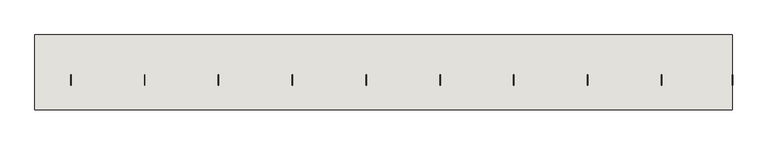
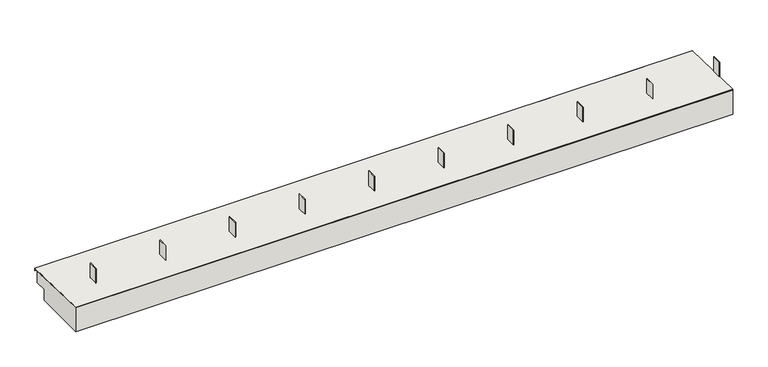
"""IFC4 building model written with IfcOpenShell, lengths in millimetres: wall geometry, Corniche1 : Corniche."""

import ifcopenshell
import ifcopenshell.guid

model = None  # the IFC model being written
_history = None  # IfcOwnerHistory: only IFC2X3 demands one
_inside = {}  # id of a spatial element -> (the spatial element, [elements in it])
_under = {}  # id of a project, library or spatial element -> (it, [spatial elements below it])
_declared = {}  # id of a project -> (the project, [libraries it declares])
_typed = {}  # id of a type object -> (the type object, [elements of that type])
_made_of = {}  # id of a material, layer set ... -> (it, [elements and type objects made of it])


def new_model(schema):
    """Start an empty IFC model of exactly this schema.

    Asked for "IFC4X3", IfcOpenShell would pick the latest addendum, in which some entities
    have other attributes; the version numbers below select the first issue.
    IFC2X3 requires an IfcOwnerHistory on every rooted entity: one is made here for all.
    """
    global model, _history
    if schema == "IFC4X3":
        model = ifcopenshell.file(schema_version=(4, 3, 0, 0))
    else:
        model = ifcopenshell.file(schema=schema)
    _inside.clear()
    _under.clear()
    _declared.clear()
    _typed.clear()
    _made_of.clear()
    _history = None
    if model.schema == "IFC2X3":
        org = make("IfcOrganization", Name="unknown")
        user = make(
            "IfcPersonAndOrganization",
            ThePerson=make("IfcPerson", FamilyName="unknown"),
            TheOrganization=org,
        )
        app = make(
            "IfcApplication",
            ApplicationDeveloper=org,
            Version="unknown",
            ApplicationFullName="unknown",
            ApplicationIdentifier="unknown",
        )
        _history = make(
            "IfcOwnerHistory",
            OwningUser=user,
            OwningApplication=app,
            ChangeAction="ADDED",
            CreationDate=0,
        )
    return model


def make(cls, **values):
    """One entity of the class cls with the attributes given. An attribute that is None is left unset."""
    return model.create_entity(
        cls, **{name: value for name, value in values.items() if value is not None}
    )


def rooted(cls, **values):
    """An entity with a GlobalId (a new one), such as an element, a storey or a relation."""
    return make(cls, GlobalId=ifcopenshell.guid.new(), OwnerHistory=_history, **values)


def si_unit(unit_type, name, prefix=None):
    """IfcSIUnit, for example si_unit("LENGTHUNIT", "METRE", prefix="MILLI")."""
    return make("IfcSIUnit", UnitType=unit_type, Prefix=prefix, Name=name)


def assignment(units):
    """IfcUnitAssignment: the units of a project."""
    return None if units is None else make("IfcUnitAssignment", Units=units)


def point(xyz):
    """IfcCartesianPoint."""
    return None if xyz is None else make("IfcCartesianPoint", Coordinates=xyz)


def direction(xyz):
    """IfcDirection."""
    return None if xyz is None else make("IfcDirection", DirectionRatios=xyz)


def frame(location, z_axis=None, x_axis=None):
    """IfcAxis2Placement3D, a coordinate frame: its origin and axes. An axis left out is left unset."""
    return make(
        "IfcAxis2Placement3D",
        Location=point(location),
        Axis=direction(z_axis),
        RefDirection=direction(x_axis),
    )


def origin():
    """The frame at (0, 0, 0) with its axes left unset."""
    return frame((0.0, 0.0, 0.0))


def place(relative_to, where):
    """IfcLocalPlacement: puts the frame where relative to a parent placement (None: the world)."""
    return make(
        "IfcLocalPlacement", PlacementRelTo=relative_to, RelativePlacement=where
    )


def context(
    kind, dimensions, precision=None, world=None, true_north=None, identifier=None
):
    """IfcGeometricRepresentationContext, for example the 3D "Model" context."""
    return make(
        "IfcGeometricRepresentationContext",
        ContextIdentifier=identifier,
        ContextType=kind,
        CoordinateSpaceDimension=dimensions,
        Precision=precision,
        WorldCoordinateSystem=world,
        TrueNorth=true_north,
    )


def project(units=None, contexts=None):
    """IfcProject with its units and contexts."""
    return rooted(
        "IfcProject",
        Name="project",
        RepresentationContexts=contexts,
        UnitsInContext=assignment(units),
    )


def spatial(cls, under=None, at=None, **own):
    """A site, building, storey or space (cls), placed at a placement, below another one or the project."""
    s = rooted(cls, ObjectPlacement=at, **own)
    if under is not None:
        _under.setdefault(under.id(), (under, []))[1].append(s)
    return s


def polyline(points):
    """IfcPolyline through the points."""
    return make("IfcPolyline", Points=[point(p) for p in points])


def outline(outer, holes=None, kind="AREA"):
    """IfcArbitraryClosedProfileDef: a profile drawn as a closed curve; with holes, ...WithVoids."""
    if holes is None:
        return make("IfcArbitraryClosedProfileDef", ProfileType=kind, OuterCurve=outer)
    return make(
        "IfcArbitraryProfileDefWithVoids",
        ProfileType=kind,
        OuterCurve=outer,
        InnerCurves=holes,
    )


def extrude(swept, where, along, depth):
    """IfcExtrudedAreaSolid: the profile swept, set in the frame where, extruded along a direction by depth."""
    return make(
        "IfcExtrudedAreaSolid",
        SweptArea=swept,
        Position=where,
        ExtrudedDirection=direction(along),
        Depth=depth,
    )


def shape(context_of_items, identifier, shape_type, items):
    """IfcShapeRepresentation: the items that make up one representation, for example the "Body"."""
    return make(
        "IfcShapeRepresentation",
        ContextOfItems=context_of_items,
        RepresentationIdentifier=identifier,
        RepresentationType=shape_type,
        Items=items,
    )


def source(mapping_origin, context_of_items, identifier, shape_type, items):
    """IfcRepresentationMap: a shape defined once, which mapped items show again and again."""
    return make(
        "IfcRepresentationMap",
        MappingOrigin=mapping_origin,
        MappedRepresentation=shape(context_of_items, identifier, shape_type, items),
    )


def transform(
    local_origin,
    x_axis=None,
    y_axis=None,
    z_axis=None,
    scale=None,
    scale2=None,
    scale3=None,
    uniform=True,
):
    """IfcCartesianTransformationOperator3D, or its non-uniform kind. x_axis, y_axis, z_axis: its Axis1, 2, 3."""
    if uniform:
        return make(
            "IfcCartesianTransformationOperator3D",
            Axis1=direction(x_axis),
            Axis2=direction(y_axis),
            LocalOrigin=point(local_origin),
            Scale=scale,
            Axis3=direction(z_axis),
        )
    return make(
        "IfcCartesianTransformationOperator3DnonUniform",
        Axis1=direction(x_axis),
        Axis2=direction(y_axis),
        LocalOrigin=point(local_origin),
        Scale=scale,
        Axis3=direction(z_axis),
        Scale2=scale2,
        Scale3=scale3,
    )


def mapped(mapping_source, mapping_target):
    """IfcMappedItem: shows the shape of a source again, moved by a transform."""
    return make(
        "IfcMappedItem", MappingSource=mapping_source, MappingTarget=mapping_target
    )


def made_of(thing, what):
    """Note that an element or type object is made of a material, layer set ...; save() writes the relation."""
    if what is not None:
        _made_of.setdefault(what.id(), (what, []))[1].append(thing)
    return thing


def element(
    cls,
    number,
    at=None,
    inside=None,
    cuts=None,
    type_object=None,
    material=None,
    context=None,
    identifier="Body",
    shape_type=None,
    held_by="IfcProductDefinitionShape",
    body=None,
    shapes=None,
    **own,
):
    """One element of the class cls, such as IfcWall. Its Tag is "e" and its number.

    at: its placement. inside: the storey or other place that contains it. cuts: it is an
    opening in that element (IfcRelVoidsElement). A single representation is given by context,
    identifier, shape_type and body (its items); several are given by shapes. held_by: the class
    of the entity that holds the representations. save() writes the other relations.
    """
    e = rooted(cls, Tag="e%d" % number, ObjectPlacement=at, **own)
    if body is not None:
        shapes = [shape(context, identifier, shape_type, body)]
    if shapes is not None:
        e.Representation = make(held_by, Representations=shapes)
    if inside is not None:
        _inside.setdefault(inside.id(), (inside, []))[1].append(e)
    if cuts is not None:
        rooted(
            "IfcRelVoidsElement", RelatingBuildingElement=cuts, RelatedOpeningElement=e
        )
    if type_object is not None:
        _typed.setdefault(type_object.id(), (type_object, []))[1].append(e)
    return made_of(e, material)


def aggregate(whole, parts):
    """IfcRelAggregates: a whole, such as a stair, and the parts it consists of."""
    return rooted("IfcRelAggregates", RelatingObject=whole, RelatedObjects=parts)


def save(model, path):
    """Write the relations noted so far, then the file.

    IfcRelAggregates (storeys below a building ...), IfcRelContainedInSpatialStructure (elements
    in a storey), IfcRelDefinesByType, IfcRelAssociatesMaterial and IfcRelDeclares: one each for
    every whole, place, type object, material and project.
    """
    for whole, parts in _under.values():
        aggregate(whole, parts)
    for where, things in _inside.values():
        rooted(
            "IfcRelContainedInSpatialStructure",
            RelatedElements=things,
            RelatingStructure=where,
        )
    for kind, things in _typed.values():
        rooted("IfcRelDefinesByType", RelatedObjects=things, RelatingType=kind)
    for what, things in _made_of.values():
        rooted("IfcRelAssociatesMaterial", RelatedObjects=things, RelatingMaterial=what)
    for by, libraries in _declared.values():
        rooted("IfcRelDeclares", RelatingContext=by, RelatedDefinitions=libraries)
    model.write(path)


def wall_f2b026c9(model_context):
    return source(origin(), model_context, "Body", "SweptSolid", [
        extrude(outline(polyline([(9081.7466393, 7292.9133288), (9076.7466393, 7292.9133288), (9076.7466393, 7417.9133288), (9081.7466393, 7417.9133288), (9081.7466393, 7292.9133288)])), frame((0.0, 0.0, 6832.3587747), z_axis=(0.0, 0.0, 1.0), x_axis=(1.0, 0.0, 0.0)), (0.0, 0.0, 1.0), 200.0412253),
        extrude(outline(polyline([(8229.4466393, 7292.9133288), (8224.4466393, 7292.9133288), (8224.4466393, 7417.9133288), (8229.4466393, 7417.9133288), (8229.4466393, 7292.9133288)])), frame((0.0, 0.0, 6832.3587747), z_axis=(0.0, 0.0, 1.0), x_axis=(1.0, 0.0, 0.0)), (0.0, 0.0, 1.0), 200.0412253),
        extrude(outline(polyline([(7341.1466393, 7292.9133288), (7336.1466393, 7292.9133288), (7336.1466393, 7417.9133288), (7341.1466393, 7417.9133288), (7341.1466393, 7292.9133288)])), frame((0.0, 0.0, 6832.3587747), z_axis=(0.0, 0.0, 1.0), x_axis=(1.0, 0.0, 0.0)), (0.0, 0.0, 1.0), 200.0412253),
        extrude(outline(polyline([(6452.8466393, 7292.9133288), (6447.8466393, 7292.9133288), (6447.8466393, 7417.9133288), (6452.8466393, 7417.9133288), (6452.8466393, 7292.9133288)])), frame((0.0, 0.0, 6832.3587747), z_axis=(0.0, 0.0, 1.0), x_axis=(1.0, 0.0, 0.0)), (0.0, 0.0, 1.0), 200.0412253),
        extrude(outline(polyline([(5564.5466393, 7292.9133288), (5559.5466393, 7292.9133288), (5559.5466393, 7417.9133288), (5564.5466393, 7417.9133288), (5564.5466393, 7292.9133288)])), frame((0.0, 0.0, 6832.3587747), z_axis=(0.0, 0.0, 1.0), x_axis=(1.0, 0.0, 0.0)), (0.0, 0.0, 1.0), 200.0412253),
        extrude(outline(polyline([(4676.2466393, 7292.9133288), (4671.2466393, 7292.9133288), (4671.2466393, 7417.9133288), (4676.2466393, 7417.9133288), (4676.2466393, 7292.9133288)])), frame((0.0, 0.0, 6832.3587747), z_axis=(0.0, 0.0, 1.0), x_axis=(1.0, 0.0, 0.0)), (0.0, 0.0, 1.0), 200.0412253),
        extrude(outline(polyline([(3787.9466393, 7292.9133288), (3782.9466393, 7292.9133288), (3782.9466393, 7417.9133288), (3787.9466393, 7417.9133288), (3787.9466393, 7292.9133288)])), frame((0.0, 0.0, 6832.3587747), z_axis=(0.0, 0.0, 1.0), x_axis=(1.0, 0.0, 0.0)), (0.0, 0.0, 1.0), 200.0412253),
        extrude(outline(polyline([(2899.6466393, 7292.9133288), (2894.6466393, 7292.9133288), (2894.6466393, 7417.9133288), (2899.6466393, 7417.9133288), (2899.6466393, 7292.9133288)])), frame((0.0, 0.0, 6832.3587747), z_axis=(0.0, 0.0, 1.0), x_axis=(1.0, 0.0, 0.0)), (0.0, 0.0, 1.0), 200.0412253),
        extrude(outline(polyline([(2011.3466393, 7292.9133288), (2006.3466393, 7292.9133288), (2006.3466393, 7417.9133288), (2011.3466393, 7417.9133288), (2011.3466393, 7292.9133288)])), frame((0.0, 0.0, 6832.3587747), z_axis=(0.0, 0.0, 1.0), x_axis=(1.0, 0.0, 0.0)), (0.0, 0.0, 1.0), 200.0412253),
        extrude(outline(polyline([(1123.0466393, 7292.9133288), (1118.0466393, 7292.9133288), (1118.0466393, 7417.9133288), (1123.0466393, 7417.9133288), (1123.0466393, 7292.9133288)])), frame((0.0, 0.0, 6832.3587747), z_axis=(0.0, 0.0, 1.0), x_axis=(1.0, 0.0, 0.0)), (0.0, 0.0, 1.0), 200.0412253),
        extrude(outline(polyline([(7896.9601315, 6818.684778), (6996.9601315, 6842.3587747), (6996.9601315, 6844.3594665), (7898.9601315, 6820.6328609), (7898.9601315, 6790.6328609), (7896.9601315, 6790.6328609), (7896.9601315, 6818.684778)])), frame((688.2466393, 0.0, 0.0), z_axis=(1.0, 0.0, 0.0), x_axis=(0.0, 1.0, 0.0)), (0.0, 0.0, 1.0), 8390.0),
        extrude(outline(polyline([(7846.9601315, 6660.0), (7696.9601315, 6660.0), (7696.9601315, 6510.0), (6996.9601315, 6510.0), (6996.9601315, 6832.3587747), (7846.9601315, 6810.0), (7846.9601315, 6660.0)])), frame((688.2466393, 0.0, 0.0), z_axis=(1.0, 0.0, 0.0), x_axis=(0.0, 1.0, 0.0)), (0.0, 0.0, 1.0), 8390.0),
    ])


if __name__ == "__main__":
    model = new_model("IFC4")
    model_context = context("Model", 3, world=origin())
    ifc_project = project(units=[si_unit("LENGTHUNIT", "METRE", prefix="MILLI")], contexts=[model_context])
    site = spatial("IfcSite", under=ifc_project)
    building = spatial("IfcBuilding", under=site)
    placement = place(None, origin())
    wall_shape = wall_f2b026c9(model_context)
    element("IfcWall", 1, ObjectType="Corniche1 : Corniche", at=placement, inside=building, context=model_context, shape_type="MappedRepresentation", body=[
        mapped(wall_shape, transform((0.0, 0.0, 0.0), x_axis=(1.0, 0.0, 0.0), y_axis=(0.0, 1.0, 0.0), z_axis=(0.0, 0.0, 1.0))),
    ])
    save(model, "model.ifc")
